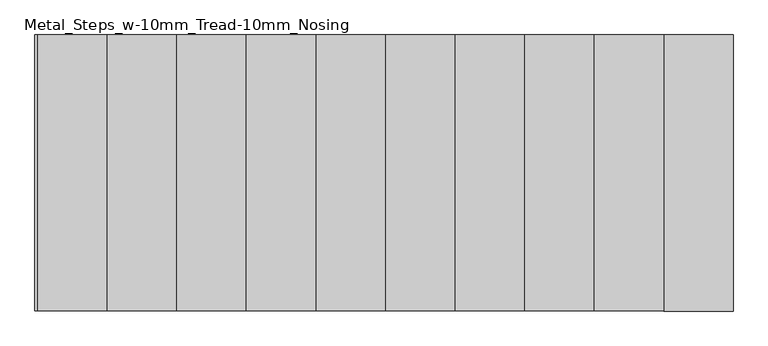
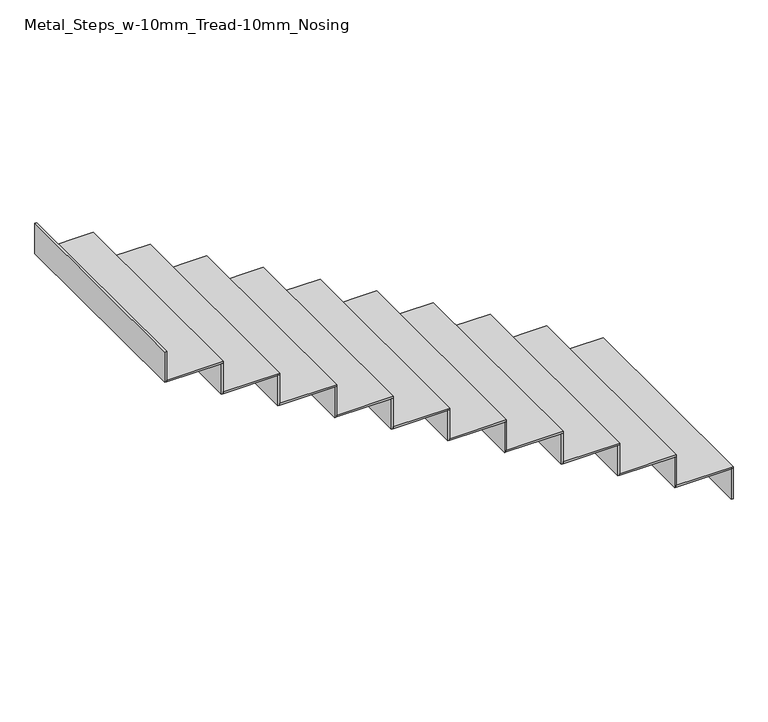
"""IFC4 building model written with IfcOpenShell, lengths in millimetres: stair flight geometry, Metal_Steps_w-10mm_Tread-10mm_Nosing."""

from ifc_helpers import new_model, si_unit, frame, origin, place, context, project, spatial, polyline, outline, extrude, source, transform, mapped, element, save


def metal_steps_w_10mm_tread_10mm_nosing_b2a2cf57(model_context):
    return source(origin(), model_context, "Body", "SweptSolid", [
        extrude(outline(polyline([(2188.5041438, -2084.8316761), (2198.5041438, -2084.8316761), (2198.5041438, -3274.8316761), (2188.5041438, -3274.8316761), (2188.5041438, -2084.8316761)])), frame((0.0, 0.0, 9375.0), z_axis=(0.0, 0.0, 1.0), x_axis=(1.0, 0.0, 0.0)), (0.0, 0.0, 1.0), 170.4545455),
        extrude(outline(polyline([(1898.5041438, -3274.8316761), (1898.5041438, -2084.8316761), (2198.5041438, -2084.8316761), (2198.5041438, -3274.8316761), (1898.5041438, -3274.8316761)])), frame((0.0, 0.0, 9545.4545455), z_axis=(0.0, 0.0, 1.0), x_axis=(1.0, 0.0, 0.0)), (0.0, 0.0, 1.0), 10.0),
        extrude(outline(polyline([(1888.5041438, -2084.8316761), (1898.5041438, -2084.8316761), (1898.5041438, -3274.8316761), (1888.5041438, -3274.8316761), (1888.5041438, -2084.8316761)])), frame((0.0, 0.0, 9545.4545455), z_axis=(0.0, 0.0, 1.0), x_axis=(1.0, 0.0, 0.0)), (0.0, 0.0, 1.0), 170.4545455),
        extrude(outline(polyline([(1598.5041438, -3274.8316761), (1598.5041438, -2084.8316761), (1898.5041438, -2084.8316761), (1898.5041438, -3274.8316761), (1598.5041438, -3274.8316761)])), frame((0.0, 0.0, 9715.9090909), z_axis=(0.0, 0.0, 1.0), x_axis=(1.0, 0.0, 0.0)), (0.0, 0.0, 1.0), 10.0),
        extrude(outline(polyline([(1588.5041438, -2084.8316761), (1598.5041438, -2084.8316761), (1598.5041438, -3274.8316761), (1588.5041438, -3274.8316761), (1588.5041438, -2084.8316761)])), frame((0.0, 0.0, 9715.9090909), z_axis=(0.0, 0.0, 1.0), x_axis=(1.0, 0.0, 0.0)), (0.0, 0.0, 1.0), 170.4545455),
        extrude(outline(polyline([(1298.5041438, -3274.8316761), (1298.5041438, -2084.8316761), (1598.5041438, -2084.8316761), (1598.5041438, -3274.8316761), (1298.5041438, -3274.8316761)])), frame((0.0, 0.0, 9886.3636364), z_axis=(0.0, 0.0, 1.0), x_axis=(1.0, 0.0, 0.0)), (0.0, 0.0, 1.0), 10.0),
        extrude(outline(polyline([(1288.5041438, -2084.8316761), (1298.5041438, -2084.8316761), (1298.5041438, -3274.8316761), (1288.5041438, -3274.8316761), (1288.5041438, -2084.8316761)])), frame((0.0, 0.0, 9886.3636364), z_axis=(0.0, 0.0, 1.0), x_axis=(1.0, 0.0, 0.0)), (0.0, 0.0, 1.0), 170.4545455),
        extrude(outline(polyline([(998.5041438, -3274.8316761), (998.5041438, -2084.8316761), (1298.5041438, -2084.8316761), (1298.5041438, -3274.8316761), (998.5041438, -3274.8316761)])), frame((0.0, 0.0, 10056.8181818), z_axis=(0.0, 0.0, 1.0), x_axis=(1.0, 0.0, 0.0)), (0.0, 0.0, 1.0), 10.0),
        extrude(outline(polyline([(988.5041438, -2084.8316761), (998.5041438, -2084.8316761), (998.5041438, -3274.8316761), (988.5041438, -3274.8316761), (988.5041438, -2084.8316761)])), frame((0.0, 0.0, 10056.8181818), z_axis=(0.0, 0.0, 1.0), x_axis=(1.0, 0.0, 0.0)), (0.0, 0.0, 1.0), 170.4545455),
        extrude(outline(polyline([(698.5041438, -3274.8316761), (698.5041438, -2084.8316761), (998.5041438, -2084.8316761), (998.5041438, -3274.8316761), (698.5041438, -3274.8316761)])), frame((0.0, 0.0, 10227.2727273), z_axis=(0.0, 0.0, 1.0), x_axis=(1.0, 0.0, 0.0)), (0.0, 0.0, 1.0), 10.0),
        extrude(outline(polyline([(688.5041438, -2084.8316761), (698.5041438, -2084.8316761), (698.5041438, -3274.8316761), (688.5041438, -3274.8316761), (688.5041438, -2084.8316761)])), frame((0.0, 0.0, 10227.2727273), z_axis=(0.0, 0.0, 1.0), x_axis=(1.0, 0.0, 0.0)), (0.0, 0.0, 1.0), 170.4545455),
        extrude(outline(polyline([(398.5041438, -3274.8316761), (398.5041438, -2084.8316761), (698.5041438, -2084.8316761), (698.5041438, -3274.8316761), (398.5041438, -3274.8316761)])), frame((0.0, 0.0, 10397.7272727), z_axis=(0.0, 0.0, 1.0), x_axis=(1.0, 0.0, 0.0)), (0.0, 0.0, 1.0), 10.0),
        extrude(outline(polyline([(388.5041438, -2084.8316761), (398.5041438, -2084.8316761), (398.5041438, -3274.8316761), (388.5041438, -3274.8316761), (388.5041438, -2084.8316761)])), frame((0.0, 0.0, 10397.7272727), z_axis=(0.0, 0.0, 1.0), x_axis=(1.0, 0.0, 0.0)), (0.0, 0.0, 1.0), 170.4545455),
        extrude(outline(polyline([(98.5041438, -3274.8316761), (98.5041438, -2084.8316761), (398.5041438, -2084.8316761), (398.5041438, -3274.8316761), (98.5041438, -3274.8316761)])), frame((0.0, 0.0, 10568.1818182), z_axis=(0.0, 0.0, 1.0), x_axis=(1.0, 0.0, 0.0)), (0.0, 0.0, 1.0), 10.0),
        extrude(outline(polyline([(88.5041438, -2084.8316761), (98.5041438, -2084.8316761), (98.5041438, -3274.8316761), (88.5041438, -3274.8316761), (88.5041438, -2084.8316761)])), frame((0.0, 0.0, 10568.1818182), z_axis=(0.0, 0.0, 1.0), x_axis=(1.0, 0.0, 0.0)), (0.0, 0.0, 1.0), 170.4545455),
        extrude(outline(polyline([(-201.4958562, -3274.8316761), (-201.4958562, -2084.8316761), (98.5041438, -2084.8316761), (98.5041438, -3274.8316761), (-201.4958562, -3274.8316761)])), frame((0.0, 0.0, 10738.6363636), z_axis=(0.0, 0.0, 1.0), x_axis=(1.0, 0.0, 0.0)), (0.0, 0.0, 1.0), 10.0),
        extrude(outline(polyline([(-211.4958562, -2084.8316761), (-201.4958562, -2084.8316761), (-201.4958562, -3274.8316761), (-211.4958562, -3274.8316761), (-211.4958562, -2084.8316761)])), frame((0.0, 0.0, 10738.6363636), z_axis=(0.0, 0.0, 1.0), x_axis=(1.0, 0.0, 0.0)), (0.0, 0.0, 1.0), 170.4545455),
        extrude(outline(polyline([(-501.4958562, -3274.8316761), (-501.4958562, -2084.8316761), (-201.4958562, -2084.8316761), (-201.4958562, -3274.8316761), (-501.4958562, -3274.8316761)])), frame((0.0, 0.0, 10909.0909091), z_axis=(0.0, 0.0, 1.0), x_axis=(1.0, 0.0, 0.0)), (0.0, 0.0, 1.0), 10.0),
        extrude(outline(polyline([(-511.4958562, -2084.8316761), (-501.4958562, -2084.8316761), (-501.4958562, -3274.8316761), (-511.4958562, -3274.8316761), (-511.4958562, -2084.8316761)])), frame((0.0, 0.0, 10909.0909091), z_axis=(0.0, 0.0, 1.0), x_axis=(1.0, 0.0, 0.0)), (0.0, 0.0, 1.0), 170.4545455),
        extrude(outline(polyline([(-811.4958562, -2084.8316761), (-801.4958562, -2084.8316761), (-801.4958562, -3274.8316761), (-811.4958562, -3274.8316761), (-811.4958562, -2084.8316761)])), frame((0.0, 0.0, 11079.5454545), z_axis=(0.0, 0.0, 1.0), x_axis=(1.0, 0.0, 0.0)), (0.0, 0.0, 1.0), 170.4545455),
        extrude(outline(polyline([(-801.4958562, -3274.8316761), (-801.4958562, -2084.8316761), (-501.4958562, -2084.8316761), (-501.4958562, -3274.8316761), (-801.4958562, -3274.8316761)])), frame((0.0, 0.0, 11079.5454545), z_axis=(0.0, 0.0, 1.0), x_axis=(1.0, 0.0, 0.0)), (0.0, 0.0, 1.0), 10.0),
    ])


if __name__ == "__main__":
    model = new_model("IFC4")
    model_context = context("Model", 3, world=origin())
    ifc_project = project(units=[si_unit("LENGTHUNIT", "METRE", prefix="MILLI")], contexts=[model_context])
    site = spatial("IfcSite", under=ifc_project)
    building = spatial("IfcBuilding", under=site)
    placement = place(None, origin())
    metal_steps_w_10mm_tread_10mm_nosing_shape = metal_steps_w_10mm_tread_10mm_nosing_b2a2cf57(model_context)
    element("IfcStairFlight", 1, ObjectType="Metal_Steps_w-10mm_Tread-10mm_Nosing", at=placement, inside=building, context=model_context, shape_type="MappedRepresentation", body=[
        mapped(metal_steps_w_10mm_tread_10mm_nosing_shape, transform((0.0, 0.0, 0.0), x_axis=(1.0, 0.0, 0.0), y_axis=(0.0, 1.0, 0.0), z_axis=(0.0, 0.0, 1.0))),
    ])
    save(model, "model.ifc")
